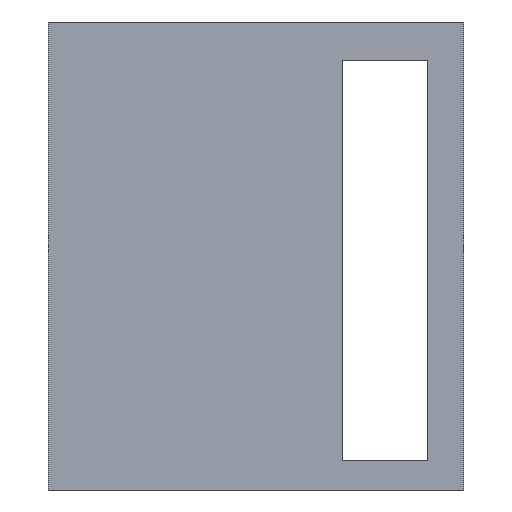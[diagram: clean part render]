
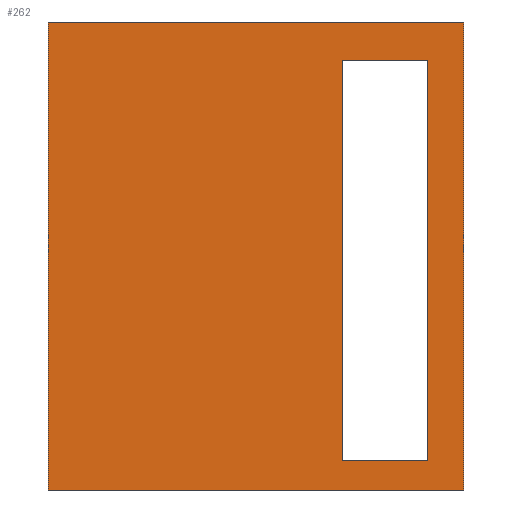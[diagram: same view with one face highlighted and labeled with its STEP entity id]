
A CAD part, front view. The second image highlights one B-rep face of the part: STEP entity #262.
In plain terms, the highlighted planar face has unit normal (0, -1, 0).
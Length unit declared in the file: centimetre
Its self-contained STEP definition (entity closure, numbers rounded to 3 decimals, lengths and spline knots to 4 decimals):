
#18=ORIENTED_EDGE('',*,*,#86,.T.);
#19=ORIENTED_EDGE('',*,*,#87,.T.);
#20=ORIENTED_EDGE('',*,*,#88,.F.);
#21=ORIENTED_EDGE('',*,*,#89,.F.);
#22=ORIENTED_EDGE('',*,*,#90,.F.);
#23=ORIENTED_EDGE('',*,*,#91,.T.);
#24=ORIENTED_EDGE('',*,*,#92,.T.);
#25=ORIENTED_EDGE('',*,*,#93,.T.);
#86=EDGE_CURVE('',#120,#121,#144,.T.);
#87=EDGE_CURVE('',#121,#122,#145,.T.);
#88=EDGE_CURVE('',#123,#122,#146,.T.);
#89=EDGE_CURVE('',#120,#123,#147,.T.);
#90=EDGE_CURVE('',#124,#125,#148,.T.);
#91=EDGE_CURVE('',#124,#126,#149,.T.);
#92=EDGE_CURVE('',#126,#127,#150,.T.);
#93=EDGE_CURVE('',#127,#125,#151,.T.);
#120=VERTEX_POINT('',#386);
#121=VERTEX_POINT('',#387);
#122=VERTEX_POINT('',#389);
#123=VERTEX_POINT('',#391);
#124=VERTEX_POINT('',#394);
#125=VERTEX_POINT('',#395);
#126=VERTEX_POINT('',#397);
#127=VERTEX_POINT('',#399);
#144=LINE('',#385,#174);
#145=LINE('',#388,#175);
#146=LINE('',#390,#176);
#147=LINE('',#392,#177);
#148=LINE('',#393,#178);
#149=LINE('',#396,#179);
#150=LINE('',#398,#180);
#151=LINE('',#400,#181);
#174=VECTOR('',#315,100.);
#175=VECTOR('',#316,100.);
#176=VECTOR('',#317,100.);
#177=VECTOR('',#318,100.);
#178=VECTOR('',#319,100.);
#179=VECTOR('',#320,100.);
#180=VECTOR('',#321,100.);
#181=VECTOR('',#322,100.);
#204=EDGE_LOOP('',(#18,#19,#20,#21));
#205=EDGE_LOOP('',(#22,#23,#24,#25));
#226=FACE_BOUND('',#204,.T.);
#227=FACE_BOUND('',#205,.T.);
#248=PLANE('',#291);
#262=ADVANCED_FACE('',(#226,#227),#248,.F.);
#291=AXIS2_PLACEMENT_3D('',#384,#313,#314);
#313=DIRECTION('',(0.,1.,0.));
#314=DIRECTION('',(1.,0.,0.));
#315=DIRECTION('',(0.,0.,-1.));
#316=DIRECTION('',(1.,0.,0.));
#317=DIRECTION('',(0.,0.,-1.));
#318=DIRECTION('',(1.,0.,0.));
#319=DIRECTION('',(1.,0.,0.));
#320=DIRECTION('',(0.,0.,1.));
#321=DIRECTION('',(1.,0.,0.));
#322=DIRECTION('',(0.,0.,-1.));
#384=CARTESIAN_POINT('',(-5.1948,0.,4.3013));
#385=CARTESIAN_POINT('',(-6.2333,0.,4.3013));
#386=CARTESIAN_POINT('',(-6.2333,0.,5.4701));
#387=CARTESIAN_POINT('',(-6.2333,0.,3.1325));
#388=CARTESIAN_POINT('',(-5.1948,0.,3.1325));
#389=CARTESIAN_POINT('',(-4.1563,0.,3.1325));
#390=CARTESIAN_POINT('',(-4.1563,0.,4.3013));
#391=CARTESIAN_POINT('',(-4.1563,0.,5.4701));
#392=CARTESIAN_POINT('',(-5.1948,0.,5.4701));
#393=CARTESIAN_POINT('',(-5.1948,0.,3.279));
#394=CARTESIAN_POINT('',(-4.7643,0.,3.279));
#395=CARTESIAN_POINT('',(-4.3393,0.,3.279));
#396=CARTESIAN_POINT('',(-4.7643,0.,4.3013));
#397=CARTESIAN_POINT('',(-4.7643,0.,5.279));
#398=CARTESIAN_POINT('',(-5.1948,0.,5.279));
#399=CARTESIAN_POINT('',(-4.3393,0.,5.279));
#400=CARTESIAN_POINT('',(-4.3393,0.,4.3013));
